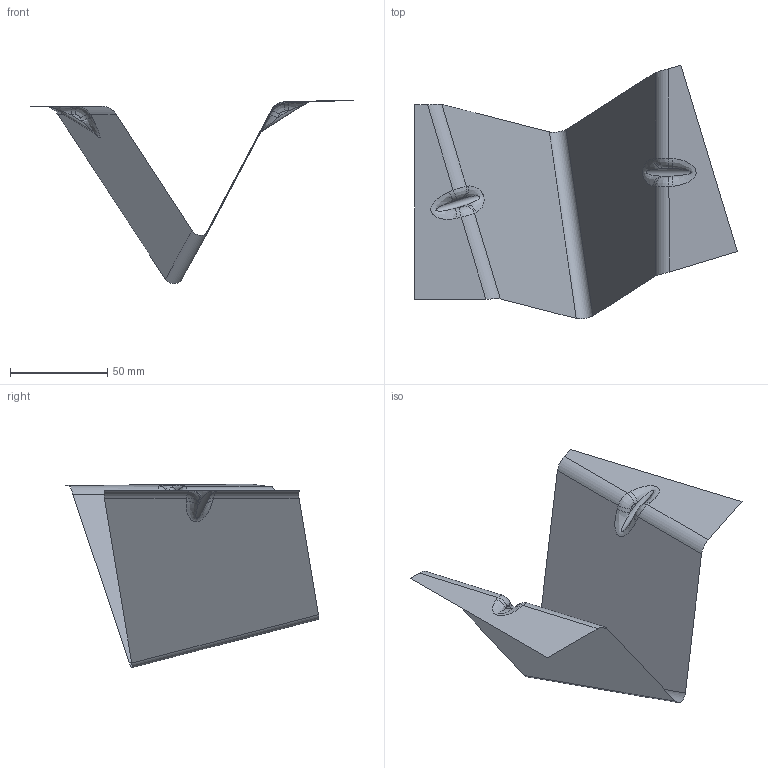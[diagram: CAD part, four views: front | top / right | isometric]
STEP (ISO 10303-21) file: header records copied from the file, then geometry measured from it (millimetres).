
FILE_DESCRIPTION(('CATIA V5 STEP Exchange'),'2;1');
FILE_NAME('C:\_Andres\UNIVERSIDAD\IQS\ASIGNATURAS\DAO\EXF\EXF-16172c\2inicio\Pascual_Sarrias_Ej03_v22.stp','2017-03-05T19:32:23+00:00',('none'),('none'),'CATIA Version 5-6 Release 2014 SP1 HF18','CATIA V5 STEP AP203','none');
FILE_SCHEMA(('CONFIG_CONTROL_DESIGN'));
Length unit declared in the file: millimetre
Products named in the file (1): Pascual_Sarrias_Ej03_v22
Bounding box: 165.83 x 130.22 x 94.22 mm (x, y, z)
Surface area: 24756.4 mm2 (no closed solid volume)
Topology: 0 solids, 1 shells, 31 faces, 78 edges, 48 vertices
Faces by surface type: cylinder 15, plane 8, bspline 8
Entity records: 2443 total; most frequent: CARTESIAN_POINT 1770, ORIENTED_EDGE 140, DIRECTION 90, EDGE_CURVE 78, VERTEX_POINT 48, VECTOR 40, LINE 40, ADVANCED_FACE 31
